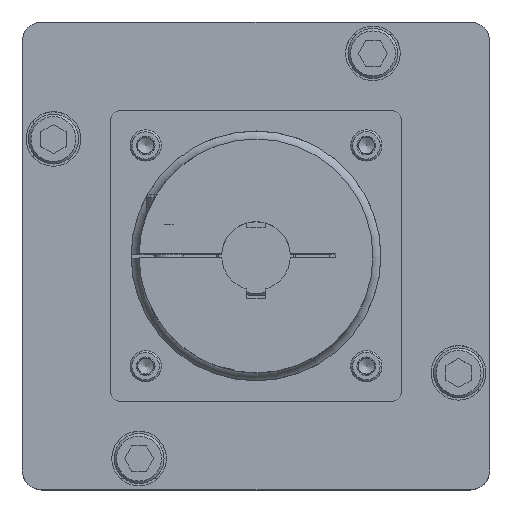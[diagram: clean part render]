
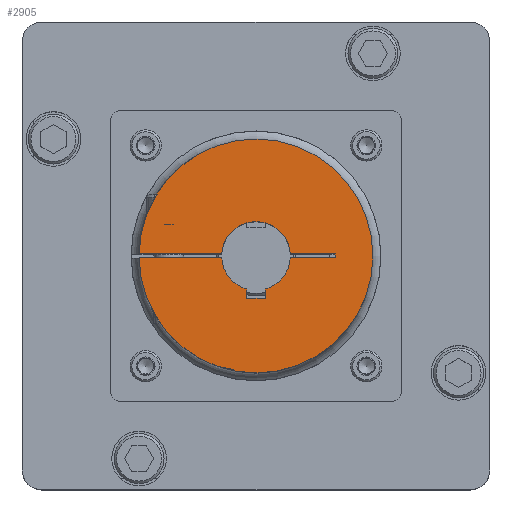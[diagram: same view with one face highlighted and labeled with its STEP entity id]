
A CAD part, top view. The second image highlights one B-rep face of the part: STEP entity #2905.
In plain terms, the highlighted planar face has unit normal (0, 0, 1).
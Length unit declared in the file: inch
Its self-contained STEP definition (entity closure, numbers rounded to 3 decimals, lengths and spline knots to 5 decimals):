
#110 = CARTESIAN_POINT ( 'NONE',  ( 0., 0., 9.9436 ) ) ;
#254 = VERTEX_POINT ( 'NONE', #26378 ) ;
#368 = ORIENTED_EDGE ( 'NONE', *, *, #29011, .T. ) ;
#517 = DIRECTION ( 'NONE',  ( 0., 0., 1. ) ) ;
#563 = CARTESIAN_POINT ( 'NONE',  ( 1., -0.025, 9.9436 ) ) ;
#763 = EDGE_CURVE ( 'NONE', #23339, #254, #1669, .T. ) ;
#1160 = DIRECTION ( 'NONE',  ( 0., 0., 1. ) ) ;
#1174 = CARTESIAN_POINT ( 'NONE',  ( 1., 0.025, 9.9436 ) ) ;
#1350 = AXIS2_PLACEMENT_3D ( 'NONE', #28051, #25774, #2350 ) ;
#1669 = LINE ( 'NONE', #4092, #2888 ) ;
#1880 = CARTESIAN_POINT ( 'NONE',  ( 0.43233, -0.025, 9.9436 ) ) ;
#2323 = DIRECTION ( 'NONE',  ( 0., -1., 0. ) ) ;
#2350 = DIRECTION ( 'NONE',  ( 1., 0., 0. ) ) ;
#2393 = ORIENTED_EDGE ( 'NONE', *, *, #3345, .F. ) ;
#2846 = EDGE_CURVE ( 'NONE', #27871, #2903, #16327, .T. ) ;
#2888 = VECTOR ( 'NONE', #27081, 39.37008 ) ;
#2903 = VERTEX_POINT ( 'NONE', #9490 ) ;
#2905 = ADVANCED_FACE ( 'NONE', ( #18750 ), #7211, .T. ) ;
#3172 = AXIS2_PLACEMENT_3D ( 'NONE', #110, #14114, #23387 ) ;
#3345 = EDGE_CURVE ( 'NONE', #8265, #11028, #6713, .T. ) ;
#3474 = ORIENTED_EDGE ( 'NONE', *, *, #16728, .F. ) ;
#3765 = ORIENTED_EDGE ( 'NONE', *, *, #20084, .F. ) ;
#4092 = CARTESIAN_POINT ( 'NONE',  ( 0.1181, 0.41663, 9.9436 ) ) ;
#4990 = LINE ( 'NONE', #9705, #28647 ) ;
#5128 = DIRECTION ( 'NONE',  ( 1., 0., 0. ) ) ;
#5138 = CIRCLE ( 'NONE', #3172, 0.43305 ) ;
#5369 = AXIS2_PLACEMENT_3D ( 'NONE', #9656, #517, #7223 ) ;
#5815 = ORIENTED_EDGE ( 'NONE', *, *, #22563, .F. ) ;
#5890 = DIRECTION ( 'NONE',  ( 0., 1., 0. ) ) ;
#6713 = LINE ( 'NONE', #15991, #29056 ) ;
#7211 = PLANE ( 'NONE',  #1350 ) ;
#7223 = DIRECTION ( 'NONE',  ( 1., 0., 0. ) ) ;
#7557 = LINE ( 'NONE', #563, #9624 ) ;
#8089 = CARTESIAN_POINT ( 'NONE',  ( -0.1181, -0.41663, 9.9436 ) ) ;
#8265 = VERTEX_POINT ( 'NONE', #29901 ) ;
#8351 = CIRCLE ( 'NONE', #23419, 0.43305 ) ;
#9172 = ORIENTED_EDGE ( 'NONE', *, *, #24487, .F. ) ;
#9490 = CARTESIAN_POINT ( 'NONE',  ( -1.47479, 0.025, 9.9436 ) ) ;
#9624 = VECTOR ( 'NONE', #5128, 39.37008 ) ;
#9656 = CARTESIAN_POINT ( 'NONE',  ( 0., 0., 9.9436 ) ) ;
#9705 = CARTESIAN_POINT ( 'NONE',  ( -0.1181, -0.53475, 9.9436 ) ) ;
#9809 = CARTESIAN_POINT ( 'NONE',  ( -0.43233, -0.025, 9.9436 ) ) ;
#10088 = DIRECTION ( 'NONE',  ( 0., 0., 1. ) ) ;
#10571 = VERTEX_POINT ( 'NONE', #8089 ) ;
#10582 = VECTOR ( 'NONE', #12062, 39.37008 ) ;
#11028 = VERTEX_POINT ( 'NONE', #15502 ) ;
#11165 = VECTOR ( 'NONE', #12240, 39.37008 ) ;
#12062 = DIRECTION ( 'NONE',  ( -1., 0., 0. ) ) ;
#12240 = DIRECTION ( 'NONE',  ( 1., 0., 0. ) ) ;
#13170 = CARTESIAN_POINT ( 'NONE',  ( 0., 0., 9.9436 ) ) ;
#13937 = VERTEX_POINT ( 'NONE', #20325 ) ;
#14028 = LINE ( 'NONE', #19026, #20607 ) ;
#14081 = EDGE_CURVE ( 'NONE', #11028, #27871, #8351, .T. ) ;
#14114 = DIRECTION ( 'NONE',  ( 0., 0., 1. ) ) ;
#14820 = AXIS2_PLACEMENT_3D ( 'NONE', #13170, #1160, #29440 ) ;
#14965 = ORIENTED_EDGE ( 'NONE', *, *, #21166, .F. ) ;
#15090 = VECTOR ( 'NONE', #5890, 39.37008 ) ;
#15502 = CARTESIAN_POINT ( 'NONE',  ( 0.43233, 0.025, 9.9436 ) ) ;
#15754 = ORIENTED_EDGE ( 'NONE', *, *, #14081, .F. ) ;
#15991 = CARTESIAN_POINT ( 'NONE',  ( 1., 0.025, 9.9436 ) ) ;
#16327 = LINE ( 'NONE', #20894, #10582 ) ;
#16470 = VERTEX_POINT ( 'NONE', #28735 ) ;
#16728 = EDGE_CURVE ( 'NONE', #10571, #22455, #14028, .T. ) ;
#16804 = CARTESIAN_POINT ( 'NONE',  ( 1., -0.025, 9.9436 ) ) ;
#17108 = LINE ( 'NONE', #16804, #11165 ) ;
#17214 = EDGE_CURVE ( 'NONE', #254, #17734, #27948, .T. ) ;
#17386 = CARTESIAN_POINT ( 'NONE',  ( -0.43233, 0.025, 9.9436 ) ) ;
#17522 = VERTEX_POINT ( 'NONE', #9809 ) ;
#17734 = VERTEX_POINT ( 'NONE', #1880 ) ;
#18750 = FACE_OUTER_BOUND ( 'NONE', #21424, .T. ) ;
#19026 = CARTESIAN_POINT ( 'NONE',  ( -0.1181, 0.41663, 9.9436 ) ) ;
#19063 = ORIENTED_EDGE ( 'NONE', *, *, #2846, .F. ) ;
#20084 = EDGE_CURVE ( 'NONE', #13937, #17522, #7557, .T. ) ;
#20294 = ORIENTED_EDGE ( 'NONE', *, *, #763, .F. ) ;
#20325 = CARTESIAN_POINT ( 'NONE',  ( -1.47479, -0.025, 9.9436 ) ) ;
#20607 = VECTOR ( 'NONE', #2323, 39.37008 ) ;
#20894 = CARTESIAN_POINT ( 'NONE',  ( 1., 0.025, 9.9436 ) ) ;
#21166 = EDGE_CURVE ( 'NONE', #22455, #23339, #4990, .T. ) ;
#21310 = ORIENTED_EDGE ( 'NONE', *, *, #17214, .F. ) ;
#21424 = EDGE_LOOP ( 'NONE', ( #20294, #14965, #3474, #9172, #3765, #368, #19063, #15754, #2393, #5815, #23638, #21310 ) ) ;
#21686 = EDGE_CURVE ( 'NONE', #17734, #16470, #17108, .T. ) ;
#21926 = CARTESIAN_POINT ( 'NONE',  ( 0.1181, -0.53475, 9.9436 ) ) ;
#22009 = LINE ( 'NONE', #1174, #15090 ) ;
#22455 = VERTEX_POINT ( 'NONE', #27968 ) ;
#22563 = EDGE_CURVE ( 'NONE', #16470, #8265, #22009, .T. ) ;
#23339 = VERTEX_POINT ( 'NONE', #21926 ) ;
#23387 = DIRECTION ( 'NONE',  ( 1., 0., 0. ) ) ;
#23419 = AXIS2_PLACEMENT_3D ( 'NONE', #24905, #10088, #29919 ) ;
#23638 = ORIENTED_EDGE ( 'NONE', *, *, #21686, .F. ) ;
#24487 = EDGE_CURVE ( 'NONE', #17522, #10571, #5138, .T. ) ;
#24905 = CARTESIAN_POINT ( 'NONE',  ( 0., 0., 9.9436 ) ) ;
#25232 = DIRECTION ( 'NONE',  ( 1., 0., 0. ) ) ;
#25277 = DIRECTION ( 'NONE',  ( -1., 0., 0. ) ) ;
#25761 = CIRCLE ( 'NONE', #5369, 1.475 ) ;
#25774 = DIRECTION ( 'NONE',  ( 0., 0., 1. ) ) ;
#26378 = CARTESIAN_POINT ( 'NONE',  ( 0.1181, -0.41663, 9.9436 ) ) ;
#27081 = DIRECTION ( 'NONE',  ( 0., 1., 0. ) ) ;
#27871 = VERTEX_POINT ( 'NONE', #17386 ) ;
#27948 = CIRCLE ( 'NONE', #14820, 0.43305 ) ;
#27968 = CARTESIAN_POINT ( 'NONE',  ( -0.1181, -0.53475, 9.9436 ) ) ;
#28051 = CARTESIAN_POINT ( 'NONE',  ( 0., 0., 9.9436 ) ) ;
#28647 = VECTOR ( 'NONE', #25232, 39.37008 ) ;
#28735 = CARTESIAN_POINT ( 'NONE',  ( 1., -0.025, 9.9436 ) ) ;
#29011 = EDGE_CURVE ( 'NONE', #13937, #2903, #25761, .T. ) ;
#29056 = VECTOR ( 'NONE', #25277, 39.37008 ) ;
#29440 = DIRECTION ( 'NONE',  ( 1., 0., 0. ) ) ;
#29901 = CARTESIAN_POINT ( 'NONE',  ( 1., 0.025, 9.9436 ) ) ;
#29919 = DIRECTION ( 'NONE',  ( 1., 0., 0. ) ) ;
